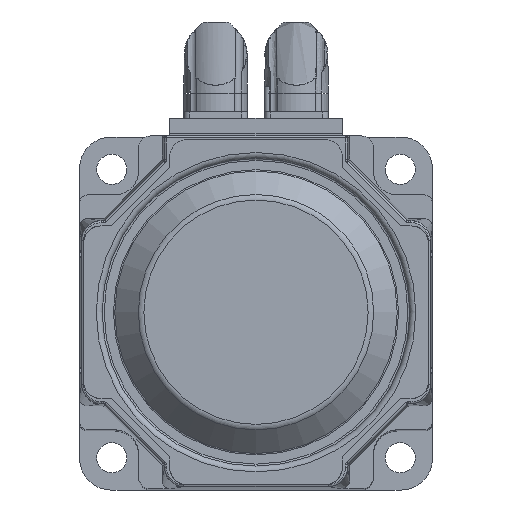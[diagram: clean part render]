
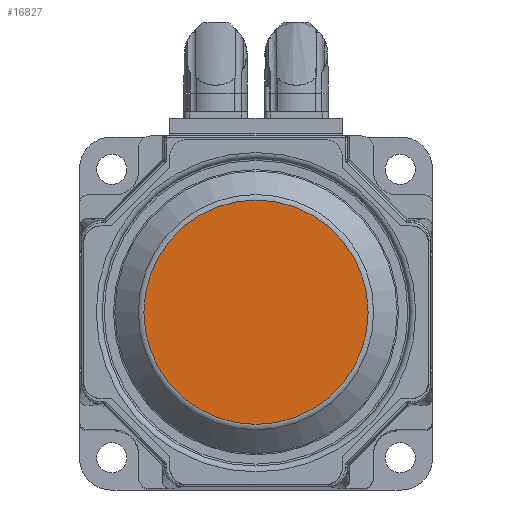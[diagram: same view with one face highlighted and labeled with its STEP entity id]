
A CAD part, top view. The second image highlights one B-rep face of the part: STEP entity #16827.
In plain terms, the highlighted planar face has unit normal (0, 0, 1).
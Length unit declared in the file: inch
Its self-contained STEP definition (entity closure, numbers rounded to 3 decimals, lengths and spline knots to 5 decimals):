
#16807=CARTESIAN_POINT('',(0.0,1.78622,1.69));
#16808=VERTEX_POINT('',#16807);
#16809=CARTESIAN_POINT('',(0.0,0.0,1.69));
#16810=DIRECTION('',(0.0,0.0,-1.0));
#16811=DIRECTION('',(0.0,1.0,0.0));
#16812=AXIS2_PLACEMENT_3D('',#16809,#16810,#16811);
#16813=CIRCLE('',#16812,1.78622);
#16814=EDGE_CURVE('',#16808,#16808,#16813,.T.);
#16819=CARTESIAN_POINT('',(0.0,0.89311,1.69));
#16820=DIRECTION('',(0.0,0.0,1.0));
#16821=DIRECTION('',(1.0,0.0,0.0));
#16822=AXIS2_PLACEMENT_3D('',#16819,#16820,#16821);
#16823=PLANE('',#16822);
#16824=ORIENTED_EDGE('',*,*,#16814,.F.);
#16825=EDGE_LOOP('',(#16824));
#16826=FACE_OUTER_BOUND('',#16825,.T.);
#16827=ADVANCED_FACE('',(#16826),#16823,.T.);
